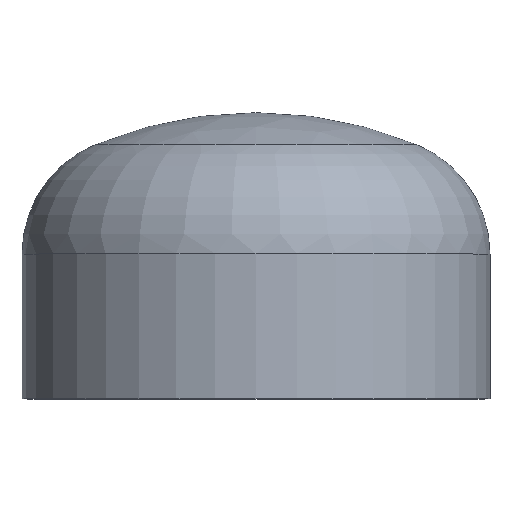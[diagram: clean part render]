
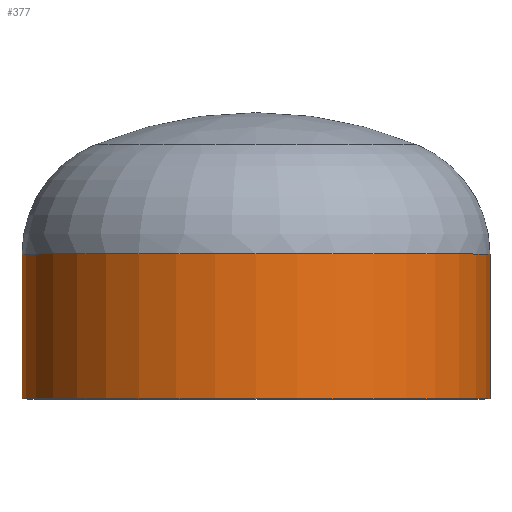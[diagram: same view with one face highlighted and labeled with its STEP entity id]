
A CAD part, top view. The second image highlights one B-rep face of the part: STEP entity #377.
In plain terms, the highlighted cylindrical face has radius 177.8 mm (diameter 355.6 mm), a partial arc.
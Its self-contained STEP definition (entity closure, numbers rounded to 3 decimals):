
#9 = ORIENTED_EDGE ( 'NONE', *, *, #150, .F. ) ;
#42 = VERTEX_POINT ( 'NONE', #271 ) ;
#58 = AXIS2_PLACEMENT_3D ( 'NONE', #217, #215, #216 ) ;
#59 = ORIENTED_EDGE ( 'NONE', *, *, #75, .T. ) ;
#61 = VERTEX_POINT ( 'NONE', #354 ) ;
#67 = AXIS2_PLACEMENT_3D ( 'NONE', #306, #304, #186 ) ;
#75 = EDGE_CURVE ( 'NONE', #42, #94, #295, .T. ) ;
#83 = EDGE_CURVE ( 'NONE', #61, #42, #355, .T. ) ;
#84 = EDGE_CURVE ( 'NONE', #61, #127, #147, .T. ) ;
#94 = VERTEX_POINT ( 'NONE', #331 ) ;
#123 = EDGE_LOOP ( 'NONE', ( #135, #59, #9, #165 ) ) ;
#127 = VERTEX_POINT ( 'NONE', #293 ) ;
#128 = AXIS2_PLACEMENT_3D ( 'NONE', #314, #142, #263 ) ;
#135 = ORIENTED_EDGE ( 'NONE', *, *, #83, .T. ) ;
#142 = DIRECTION ( 'NONE',  ( 0., -1., 0. ) ) ;
#144 = CYLINDRICAL_SURFACE ( 'NONE', #128, 177.8 ) ;
#147 = LINE ( 'NONE', #318, #348 ) ;
#150 = EDGE_CURVE ( 'NONE', #127, #94, #213, .T. ) ;
#151 = FACE_OUTER_BOUND ( 'NONE', #123, .T. ) ;
#157 = VECTOR ( 'NONE', #239, 1000. ) ;
#165 = ORIENTED_EDGE ( 'NONE', *, *, #84, .F. ) ;
#186 = DIRECTION ( 'NONE',  ( 1., 0., 0. ) ) ;
#213 = CIRCLE ( 'NONE', #58, 177.8 ) ;
#215 = DIRECTION ( 'NONE',  ( 0., -1., 0. ) ) ;
#216 = DIRECTION ( 'NONE',  ( 1., 0., 0. ) ) ;
#217 = CARTESIAN_POINT ( 'NONE',  ( 0., 0., 0. ) ) ;
#239 = DIRECTION ( 'NONE',  ( 0., -1., 0. ) ) ;
#245 = DIRECTION ( 'NONE',  ( 0., -1., 0. ) ) ;
#263 = DIRECTION ( 'NONE',  ( 1., 0., 0. ) ) ;
#271 = CARTESIAN_POINT ( 'NONE',  ( -177.8, 110., 0. ) ) ;
#274 = CARTESIAN_POINT ( 'NONE',  ( -177.8, 0., 0. ) ) ;
#293 = CARTESIAN_POINT ( 'NONE',  ( 177.8, 0., 0. ) ) ;
#295 = LINE ( 'NONE', #274, #157 ) ;
#304 = DIRECTION ( 'NONE',  ( 0., -1., 0. ) ) ;
#306 = CARTESIAN_POINT ( 'NONE',  ( 0., 110., 0. ) ) ;
#314 = CARTESIAN_POINT ( 'NONE',  ( 0., 0., 0. ) ) ;
#318 = CARTESIAN_POINT ( 'NONE',  ( 177.8, 0., 0. ) ) ;
#331 = CARTESIAN_POINT ( 'NONE',  ( -177.8, 0., 0. ) ) ;
#348 = VECTOR ( 'NONE', #245, 1000. ) ;
#354 = CARTESIAN_POINT ( 'NONE',  ( 177.8, 110., 0. ) ) ;
#355 = CIRCLE ( 'NONE', #67, 177.8 ) ;
#377 = ADVANCED_FACE ( 'NONE', ( #151 ), #144, .T. ) ;
